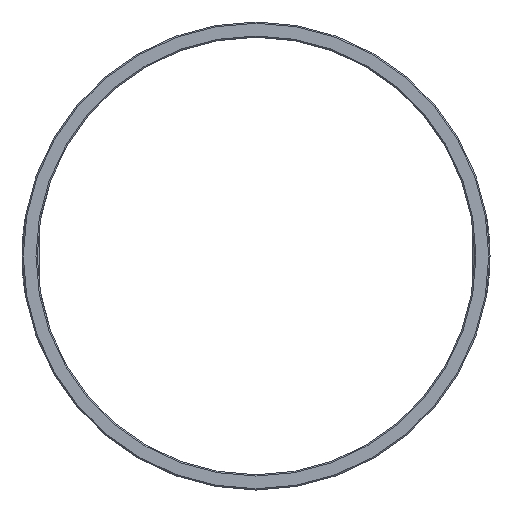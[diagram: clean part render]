
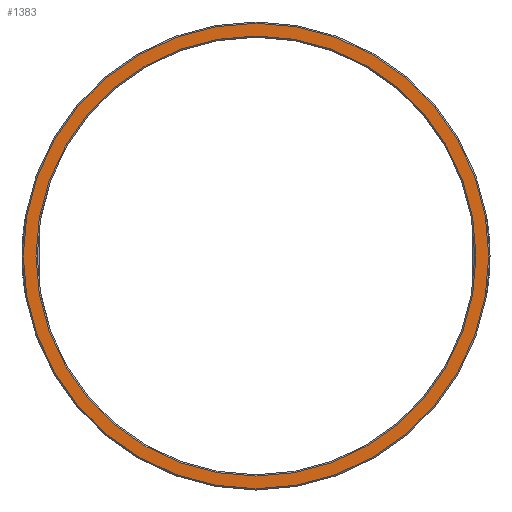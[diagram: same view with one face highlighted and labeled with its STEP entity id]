
A CAD part, left-side view. The second image highlights one B-rep face of the part: STEP entity #1383.
In plain terms, the highlighted planar face has unit normal (-1, 0, 0).
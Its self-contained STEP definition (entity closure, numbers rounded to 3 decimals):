
#1352=CARTESIAN_POINT('',(-25.25,17.6,0.));
#1353=VERTEX_POINT('',#1352);
#1354=CARTESIAN_POINT('',(-25.25,0.0,0.0));
#1355=DIRECTION('',(-1.0,0.0,0.0));
#1356=DIRECTION('',(0.0,-1.0,0.0));
#1357=AXIS2_PLACEMENT_3D('',#1354,#1355,#1356);
#1358=CIRCLE('',#1357,17.6);
#1359=EDGE_CURVE('',#1353,#1353,#1358,.T.);
#1364=CARTESIAN_POINT('',(-25.25,18.11,0.0));
#1365=DIRECTION('',(-1.0,0.0,0.0));
#1366=DIRECTION('',(0.0,0.0,1.0));
#1367=AXIS2_PLACEMENT_3D('',#1364,#1365,#1366);
#1368=PLANE('',#1367);
#1369=CARTESIAN_POINT('',(-25.25,18.62,0.));
#1370=VERTEX_POINT('',#1369);
#1371=CARTESIAN_POINT('',(-25.25,0.0,0.0));
#1372=DIRECTION('',(1.0,0.0,0.0));
#1373=DIRECTION('',(0.0,-1.0,0.0));
#1374=AXIS2_PLACEMENT_3D('',#1371,#1372,#1373);
#1375=CIRCLE('',#1374,18.62);
#1376=EDGE_CURVE('',#1370,#1370,#1375,.T.);
#1377=ORIENTED_EDGE('',*,*,#1376,.F.);
#1378=EDGE_LOOP('',(#1377));
#1379=FACE_OUTER_BOUND('',#1378,.T.);
#1380=ORIENTED_EDGE('',*,*,#1359,.F.);
#1381=EDGE_LOOP('',(#1380));
#1382=FACE_BOUND('',#1381,.T.);
#1383=ADVANCED_FACE('',(#1379,#1382),#1368,.T.);
